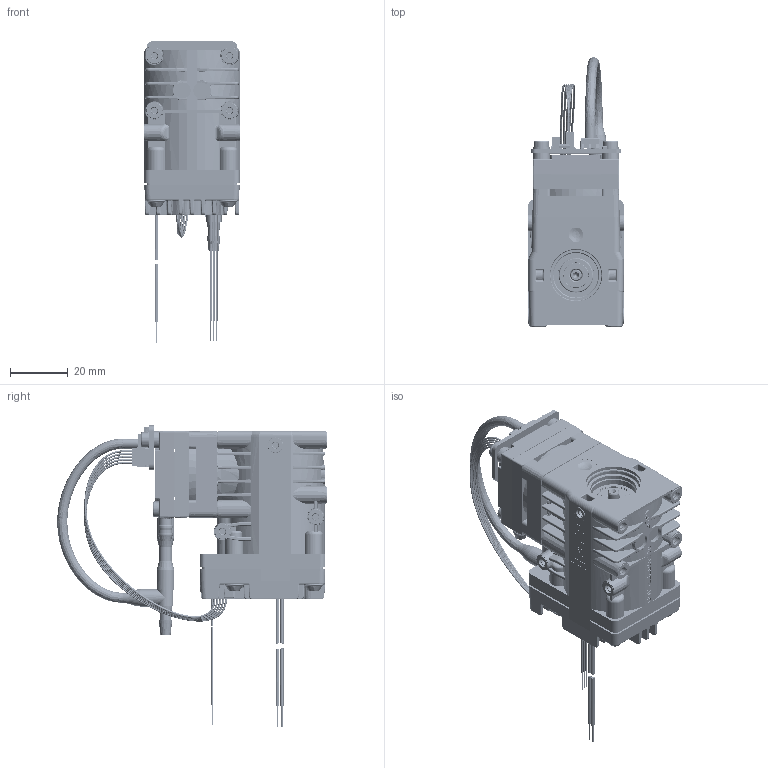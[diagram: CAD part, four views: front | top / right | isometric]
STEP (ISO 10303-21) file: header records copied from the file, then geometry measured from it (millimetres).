
FILE_DESCRIPTION((''),'2;1');
FILE_NAME('NVC830KPDC-BI5_HP','2025-11-26T11:33:51',('LuternauerR'),('KNF Flodos AG, 6210 Sursee, Switzerland'),'CREO PARAMETRIC BY PTC INC, 2024401','CREO PARAMETRIC BY PTC INC, 2024401','');
FILE_SCHEMA(('AP242_MANAGED_MODEL_BASED_3D_ENGINEERING_MIM_LF { 1 0 10303 442 1 1 4 }'));
Products named in the file (1): NVC830KPDC-BI5_HP
Bounding box: 33.4 x 93.33 x 104.36 mm (x, y, z)
Volume: 82942.6 mm3; surface area: 33183.2 mm2
Topology: 15 solids, 16 shells, 5299 faces, 13689 edges, 8444 vertices
Faces by surface type: plane 2025, cylinder 1572, bspline 609, cone 358, torus 334, sphere 257, extrusion 144
Entity records: 381755 total; most frequent: CARTESIAN_POINT 220214, ORIENTED_EDGE 27120, DIRECTION 23978, EDGE_CURVE 13560, AXIS2_PLACEMENT_3D 8487, VERTEX_POINT 8444, VECTOR 7004, LINE 6860
